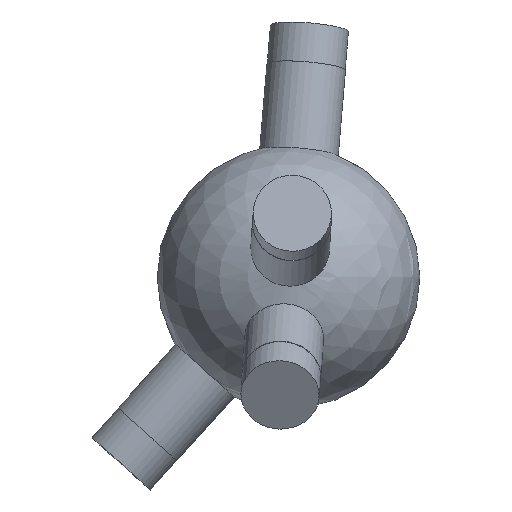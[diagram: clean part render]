
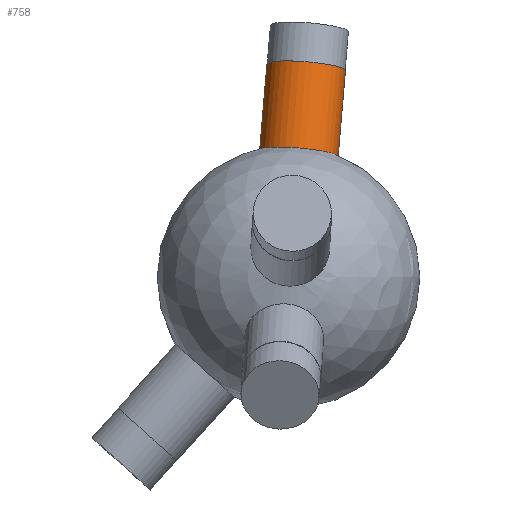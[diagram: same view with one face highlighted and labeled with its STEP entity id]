
A CAD part, top view. The second image highlights one B-rep face of the part: STEP entity #758.
In plain terms, the highlighted cylindrical face has radius 6 mm (diameter 12 mm), a full revolution.
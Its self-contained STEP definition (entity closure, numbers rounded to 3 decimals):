
#33 = SPHERICAL_SURFACE('',#34,20.);
#34 = AXIS2_PLACEMENT_3D('',#35,#36,#37);
#35 = CARTESIAN_POINT('',(0.,0.,0.));
#36 = DIRECTION('',(0.,0.,1.));
#37 = DIRECTION('',(1.,0.,-0.));
#349 = EDGE_CURVE('',#350,#350,#352,.T.);
#350 = VERTEX_POINT('',#351);
#351 = CARTESIAN_POINT('',(1.584,19.668,3.265
    ));
#352 = SURFACE_CURVE('',#353,(#358,#420),.PCURVE_S1.);
#353 = CIRCLE('',#354,6.);
#354 = AXIS2_PLACEMENT_3D('',#355,#356,#357);
#355 = CARTESIAN_POINT('',(1.584,18.824,
    -2.675));
#356 = DIRECTION('',(0.083,0.987,-0.14));
#357 = DIRECTION('',(0.,0.141,0.99)
  );
#358 = PCURVE('',#33,#359);
#359 = DEFINITIONAL_REPRESENTATION('',(#360),#419);
#360 = B_SPLINE_CURVE_WITH_KNOTS('',8,(#361,#362,#363,#364,#365,#366,
    #367,#368,#369,#370,#371,#372,#373,#374,#375,#376,#377,#378,#379,
    #380,#381,#382,#383,#384,#385,#386,#387,#388,#389,#390,#391,#392,
    #393,#394,#395,#396,#397,#398,#399,#400,#401,#402,#403,#404,#405,
    #406,#407,#408,#409,#410,#411,#412,#413,#414,#415,#416,#417,#418),
  .UNSPECIFIED.,.F.,.F.,(9,7,7,7,7,7,7,7,9),(0.,0.785,
    1.473,2.074,2.6,3.521,
    4.211,5.247,6.283),.UNSPECIFIED.);
#361 = CARTESIAN_POINT('',(1.49,0.164));
#362 = CARTESIAN_POINT('',(1.461,0.164));
#363 = CARTESIAN_POINT('',(1.431,0.161));
#364 = CARTESIAN_POINT('',(1.401,0.155));
#365 = CARTESIAN_POINT('',(1.373,0.146));
#366 = CARTESIAN_POINT('',(1.345,0.133));
#367 = CARTESIAN_POINT('',(1.32,0.117));
#368 = CARTESIAN_POINT('',(1.296,0.099));
#369 = CARTESIAN_POINT('',(1.256,0.061));
#370 = CARTESIAN_POINT('',(1.24,0.041));
#371 = CARTESIAN_POINT('',(1.225,0.02));
#372 = CARTESIAN_POINT('',(1.212,-0.002));
#373 = CARTESIAN_POINT('',(1.201,-0.026));
#374 = CARTESIAN_POINT('',(1.192,-0.051));
#375 = CARTESIAN_POINT('',(1.186,-0.076));
#376 = CARTESIAN_POINT('',(1.179,-0.124));
#377 = CARTESIAN_POINT('',(1.178,-0.146));
#378 = CARTESIAN_POINT('',(1.178,-0.169));
#379 = CARTESIAN_POINT('',(1.18,-0.191));
#380 = CARTESIAN_POINT('',(1.184,-0.214));
#381 = CARTESIAN_POINT('',(1.19,-0.236));
#382 = CARTESIAN_POINT('',(1.198,-0.257));
#383 = CARTESIAN_POINT('',(1.217,-0.295));
#384 = CARTESIAN_POINT('',(1.227,-0.313));
#385 = CARTESIAN_POINT('',(1.238,-0.329));
#386 = CARTESIAN_POINT('',(1.251,-0.345));
#387 = CARTESIAN_POINT('',(1.265,-0.36));
#388 = CARTESIAN_POINT('',(1.281,-0.373));
#389 = CARTESIAN_POINT('',(1.297,-0.386));
#390 = CARTESIAN_POINT('',(1.346,-0.416));
#391 = CARTESIAN_POINT('',(1.38,-0.432));
#392 = CARTESIAN_POINT('',(1.417,-0.443));
#393 = CARTESIAN_POINT('',(1.455,-0.449));
#394 = CARTESIAN_POINT('',(1.495,-0.45));
#395 = CARTESIAN_POINT('',(1.533,-0.446));
#396 = CARTESIAN_POINT('',(1.57,-0.437));
#397 = CARTESIAN_POINT('',(1.632,-0.413));
#398 = CARTESIAN_POINT('',(1.656,-0.401));
#399 = CARTESIAN_POINT('',(1.68,-0.386));
#400 = CARTESIAN_POINT('',(1.701,-0.369));
#401 = CARTESIAN_POINT('',(1.72,-0.349));
#402 = CARTESIAN_POINT('',(1.736,-0.329));
#403 = CARTESIAN_POINT('',(1.751,-0.307));
#404 = CARTESIAN_POINT('',(1.78,-0.248));
#405 = CARTESIAN_POINT('',(1.793,-0.211));
#406 = CARTESIAN_POINT('',(1.799,-0.172));
#407 = CARTESIAN_POINT('',(1.8,-0.132));
#408 = CARTESIAN_POINT('',(1.795,-0.093));
#409 = CARTESIAN_POINT('',(1.785,-0.055));
#410 = CARTESIAN_POINT('',(1.77,-0.019));
#411 = CARTESIAN_POINT('',(1.73,0.048));
#412 = CARTESIAN_POINT('',(1.705,0.078));
#413 = CARTESIAN_POINT('',(1.676,0.105));
#414 = CARTESIAN_POINT('',(1.643,0.128));
#415 = CARTESIAN_POINT('',(1.607,0.145));
#416 = CARTESIAN_POINT('',(1.569,0.157));
#417 = CARTESIAN_POINT('',(1.53,0.164));
#418 = CARTESIAN_POINT('',(1.49,0.164));
#419 = ( GEOMETRIC_REPRESENTATION_CONTEXT(2) 
PARAMETRIC_REPRESENTATION_CONTEXT() REPRESENTATION_CONTEXT('2D SPACE',''
  ) );
#420 = PCURVE('',#421,#426);
#421 = CYLINDRICAL_SURFACE('',#422,6.);
#422 = AXIS2_PLACEMENT_3D('',#423,#424,#425);
#423 = CARTESIAN_POINT('',(0.,0.,0.));
#424 = DIRECTION('',(0.083,0.987,-0.14));
#425 = DIRECTION('',(0.,0.141,0.99)
  );
#426 = DEFINITIONAL_REPRESENTATION('',(#427),#431);
#427 = LINE('',#428,#429);
#428 = CARTESIAN_POINT('',(0.,19.079));
#429 = VECTOR('',#430,1.);
#430 = DIRECTION('',(1.,0.));
#431 = ( GEOMETRIC_REPRESENTATION_CONTEXT(2) 
PARAMETRIC_REPRESENTATION_CONTEXT() REPRESENTATION_CONTEXT('2D SPACE',''
  ) );
#758 = ADVANCED_FACE('',(#759),#421,.T.);
#759 = FACE_BOUND('',#760,.T.);
#760 = EDGE_LOOP('',(#761,#784,#811,#812));
#761 = ORIENTED_EDGE('',*,*,#762,.T.);
#762 = EDGE_CURVE('',#350,#763,#765,.T.);
#763 = VERTEX_POINT('',#764);
#764 = CARTESIAN_POINT('',(2.688,32.79,1.4
    ));
#765 = SEAM_CURVE('',#766,(#770,#777),.PCURVE_S1.);
#766 = LINE('',#767,#768);
#767 = CARTESIAN_POINT('',(0.,0.844,
    5.94));
#768 = VECTOR('',#769,1.);
#769 = DIRECTION('',(0.083,0.987,-0.14));
#770 = PCURVE('',#421,#771);
#771 = DEFINITIONAL_REPRESENTATION('',(#772),#776);
#772 = LINE('',#773,#774);
#773 = CARTESIAN_POINT('',(6.283,-0.));
#774 = VECTOR('',#775,1.);
#775 = DIRECTION('',(0.,1.));
#776 = ( GEOMETRIC_REPRESENTATION_CONTEXT(2) 
PARAMETRIC_REPRESENTATION_CONTEXT() REPRESENTATION_CONTEXT('2D SPACE',''
  ) );
#777 = PCURVE('',#421,#778);
#778 = DEFINITIONAL_REPRESENTATION('',(#779),#783);
#779 = LINE('',#780,#781);
#780 = CARTESIAN_POINT('',(0.,-0.));
#781 = VECTOR('',#782,1.);
#782 = DIRECTION('',(0.,1.));
#783 = ( GEOMETRIC_REPRESENTATION_CONTEXT(2) 
PARAMETRIC_REPRESENTATION_CONTEXT() REPRESENTATION_CONTEXT('2D SPACE',''
  ) );
#784 = ORIENTED_EDGE('',*,*,#785,.F.);
#785 = EDGE_CURVE('',#763,#763,#786,.T.);
#786 = SURFACE_CURVE('',#787,(#792,#799),.PCURVE_S1.);
#787 = CIRCLE('',#788,6.);
#788 = AXIS2_PLACEMENT_3D('',#789,#790,#791);
#789 = CARTESIAN_POINT('',(2.688,31.945,
    -4.54));
#790 = DIRECTION('',(0.083,0.987,-0.14));
#791 = DIRECTION('',(0.,0.141,0.99)
  );
#792 = PCURVE('',#421,#793);
#793 = DEFINITIONAL_REPRESENTATION('',(#794),#798);
#794 = LINE('',#795,#796);
#795 = CARTESIAN_POINT('',(0.,32.378));
#796 = VECTOR('',#797,1.);
#797 = DIRECTION('',(1.,0.));
#798 = ( GEOMETRIC_REPRESENTATION_CONTEXT(2) 
PARAMETRIC_REPRESENTATION_CONTEXT() REPRESENTATION_CONTEXT('2D SPACE',''
  ) );
#799 = PCURVE('',#800,#805);
#800 = PLANE('',#801);
#801 = AXIS2_PLACEMENT_3D('',#802,#803,#804);
#802 = CARTESIAN_POINT('',(2.688,31.945,
    -4.54));
#803 = DIRECTION('',(0.083,0.987,-0.14));
#804 = DIRECTION('',(0.,0.141,0.99)
  );
#805 = DEFINITIONAL_REPRESENTATION('',(#806),#810);
#806 = CIRCLE('',#807,6.);
#807 = AXIS2_PLACEMENT_2D('',#808,#809);
#808 = CARTESIAN_POINT('',(0.,0.));
#809 = DIRECTION('',(1.,0.));
#810 = ( GEOMETRIC_REPRESENTATION_CONTEXT(2) 
PARAMETRIC_REPRESENTATION_CONTEXT() REPRESENTATION_CONTEXT('2D SPACE',''
  ) );
#811 = ORIENTED_EDGE('',*,*,#762,.F.);
#812 = ORIENTED_EDGE('',*,*,#349,.T.);
